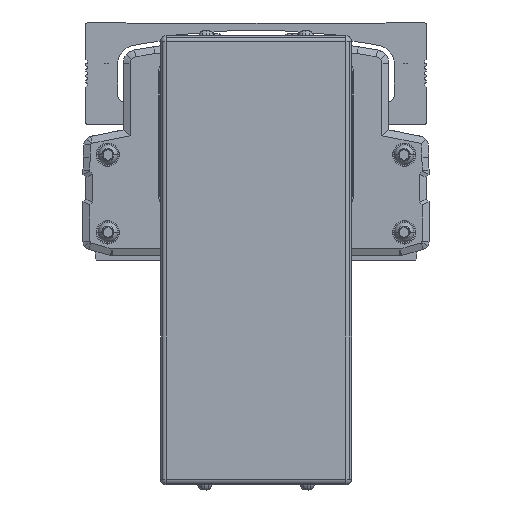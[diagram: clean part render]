
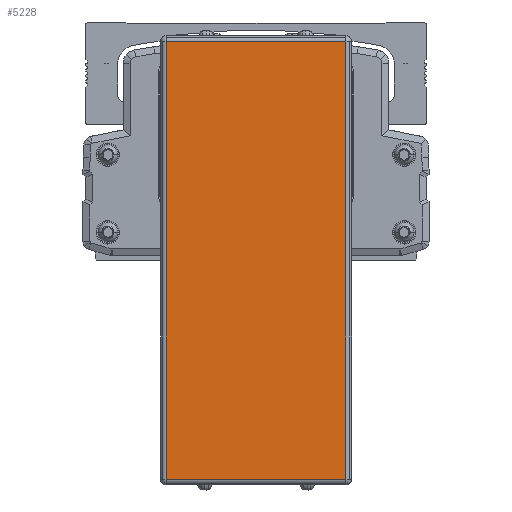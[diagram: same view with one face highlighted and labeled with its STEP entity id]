
A CAD part, front view. The second image highlights one B-rep face of the part: STEP entity #5228.
In plain terms, the highlighted planar face has unit normal (0, -1, 0).
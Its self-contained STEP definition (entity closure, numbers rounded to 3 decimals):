
#5228=ADVANCED_FACE('',(#11313),#11314,.T.);
#11313=FACE_OUTER_BOUND('',#19423,.T.);
#11314=PLANE('',#19424);
#19423=EDGE_LOOP('',(#34918,#34919,#34920,#34921));
#19424=AXIS2_PLACEMENT_3D('',#34922,#34923,#34924);
#34918=ORIENTED_EDGE('',*,*,#48535,.F.);
#34919=ORIENTED_EDGE('',*,*,#48536,.F.);
#34920=ORIENTED_EDGE('',*,*,#48537,.F.);
#34921=ORIENTED_EDGE('',*,*,#48538,.F.);
#34922=CARTESIAN_POINT('',(-299.996,-463.778,-49.1));
#34923=DIRECTION('',(0.,-1.0,0.));
#34924=DIRECTION('',(1.0,0.,0.));
#48535=EDGE_CURVE('',#59652,#59653,#59654,.T.);
#48536=EDGE_CURVE('',#59655,#59652,#59656,.T.);
#48537=EDGE_CURVE('',#59657,#59655,#59658,.T.);
#48538=EDGE_CURVE('',#59653,#59657,#59659,.T.);
#59652=VERTEX_POINT('',#75449);
#59653=VERTEX_POINT('',#75450);
#59654=LINE('',#75451,#75452);
#59655=VERTEX_POINT('',#75453);
#59656=LINE('',#75454,#75455);
#59657=VERTEX_POINT('',#75456);
#59658=LINE('',#75457,#75458);
#59659=LINE('',#75459,#75460);
#75449=CARTESIAN_POINT('',(-267.496,-463.778,30.));
#75450=CARTESIAN_POINT('',(-267.496,-463.778,-128.2));
#75451=CARTESIAN_POINT('',(-267.496,-463.778,-49.1));
#75452=VECTOR('',#86386,10.0);
#75453=CARTESIAN_POINT('',(-332.496,-463.778,30.));
#75454=CARTESIAN_POINT('',(-299.996,-463.778,30.));
#75455=VECTOR('',#86387,10.0);
#75456=CARTESIAN_POINT('',(-332.496,-463.778,-128.2));
#75457=CARTESIAN_POINT('',(-332.496,-463.778,-49.1));
#75458=VECTOR('',#86388,10.0);
#75459=CARTESIAN_POINT('',(-299.996,-463.778,-128.2));
#75460=VECTOR('',#86389,10.0);
#86386=DIRECTION('',(0.0,0.,-1.0));
#86387=DIRECTION('',(1.0,0.,0.));
#86388=DIRECTION('',(0.0,0.,1.0));
#86389=DIRECTION('',(-1.0,0.,0.));
